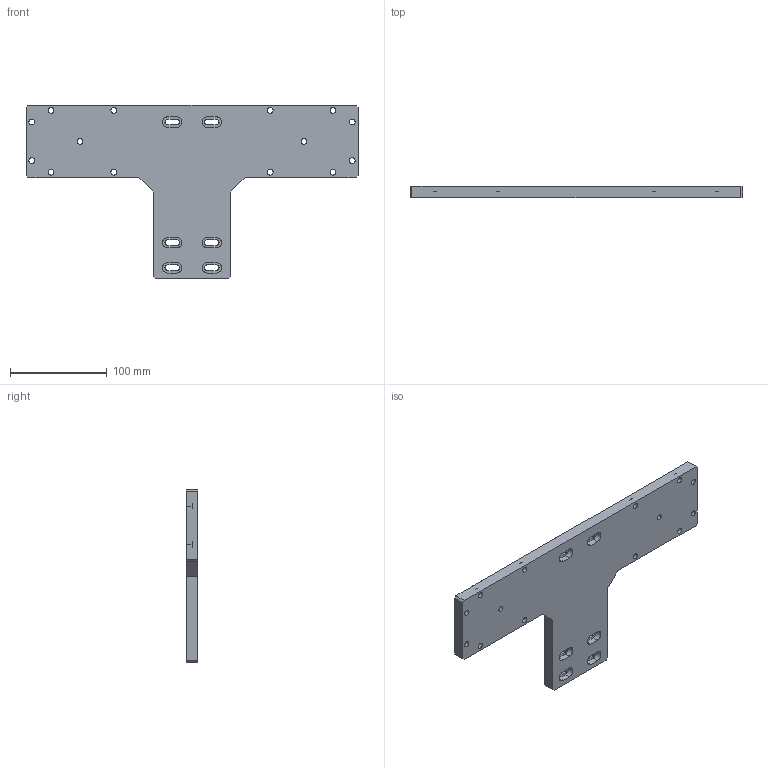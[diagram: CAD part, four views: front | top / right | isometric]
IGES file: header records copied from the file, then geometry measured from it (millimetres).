
Start section:  PTC IGES file: k80-k80m-st.igs
Global section: file name: k80-k80m-st.igs; native system: Pro/ENGINEER by Parametric Technology Corporation; preprocessor: 2008230; author: Owner; organization: Unknown; date: 20121211.154510; units: millimetre
Bounding box: 344 x 12 x 180 mm (x, y, z)
Surface area: 87032.6 mm2 (no closed solid volume)
Topology: 0 solids, 0 shells, 142 faces, 752 edges, 748 vertices
Faces by surface type: revolution 80, bspline 62
